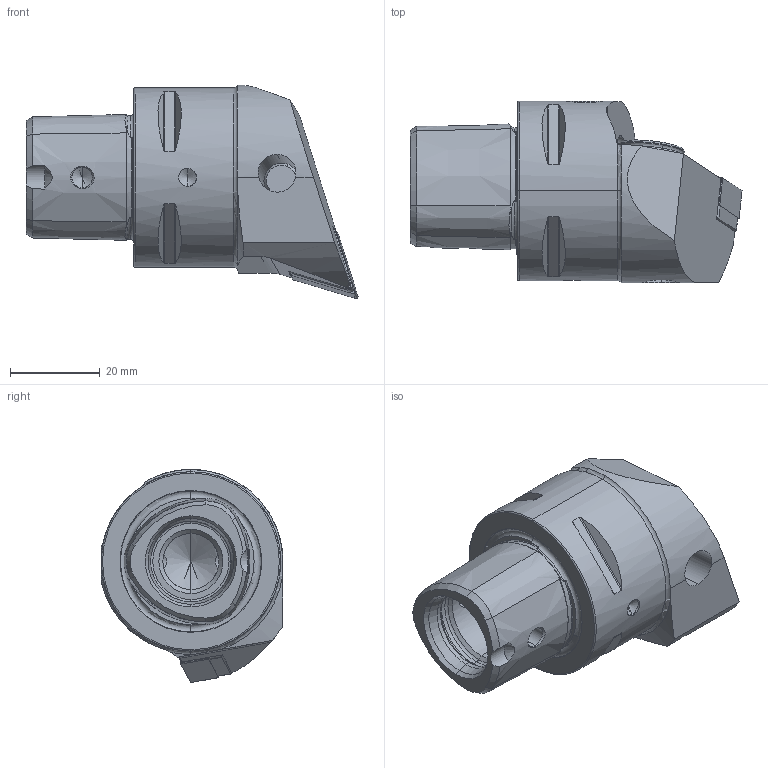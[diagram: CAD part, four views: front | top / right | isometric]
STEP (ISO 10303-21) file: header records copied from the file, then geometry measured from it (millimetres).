
FILE_DESCRIPTION (( 'STEP AP214' ), '1' );
FILE_NAME ('PS4.PDF.RHA.050-HP.STEP', '2020-09-11T12:17:12', ( '' ), ( '' ), 'SwSTEP 2.0', 'SolidWorks 2017', '' );
FILE_SCHEMA (( 'AUTOMOTIVE_DESIGN' ));
Length unit declared in the file: millimetre
Products named in the file (13): DIN 3771 - 13x1; PS4.PDF.RHA.050-HP; DIN 7991 - M5x15; WCD-ER4.101.017_A; CHP-ER1.008.011_A; ISO 8752 2x8; PS4-PDF.RHA.050-HP_A; CHP-ER1.015.006; WDF-ER3.101.000_A; WDF-ER2.101.003_A; DNMG150604; CHP-ER1.015.006_A; WCD-ER1.101.000
Assembly tree (12 placements, depth 3):
  PS4.PDF.RHA.050-HP
    PS4-PDF.RHA.050-HP_A
    WDF-ER3.101.000_A
    WCD-ER4.101.017_A
    WDF-ER2.101.003_A
    DNMG150604
    WCD-ER1.101.000
    CHP-ER1.008.011_A
    ISO 8752 2x8
    CHP-ER1.015.006
      CHP-ER1.015.006_A
      DIN 3771 - 13x1
      DIN 7991 - M5x15
Bounding box: 74 x 40.52 x 47.5 mm (x, y, z)
Volume: 50455.5 mm3; surface area: 18266.6 mm2
Topology: 11 solids, 11 shells, 458 faces, 1105 edges, 657 vertices
Faces by surface type: cone 138, plane 130, cylinder 117, torus 61, bspline 12
Entity records: 15128 total; most frequent: CARTESIAN_POINT 4133, DIRECTION 2199, ORIENTED_EDGE 2162, EDGE_CURVE 1081, AXIS2_PLACEMENT_3D 877, VERTEX_POINT 657, EDGE_LOOP 490, FACE_OUTER_BOUND 458
